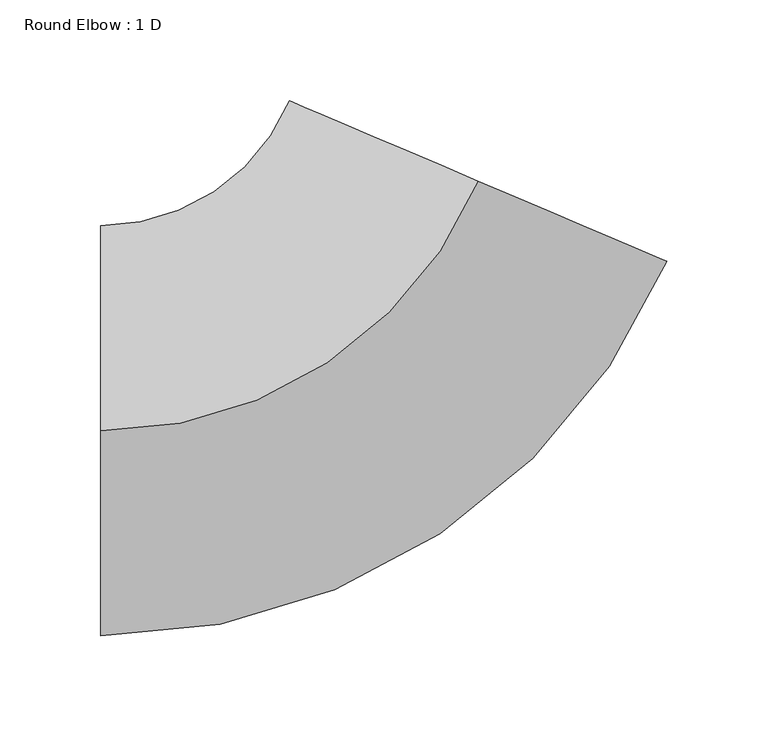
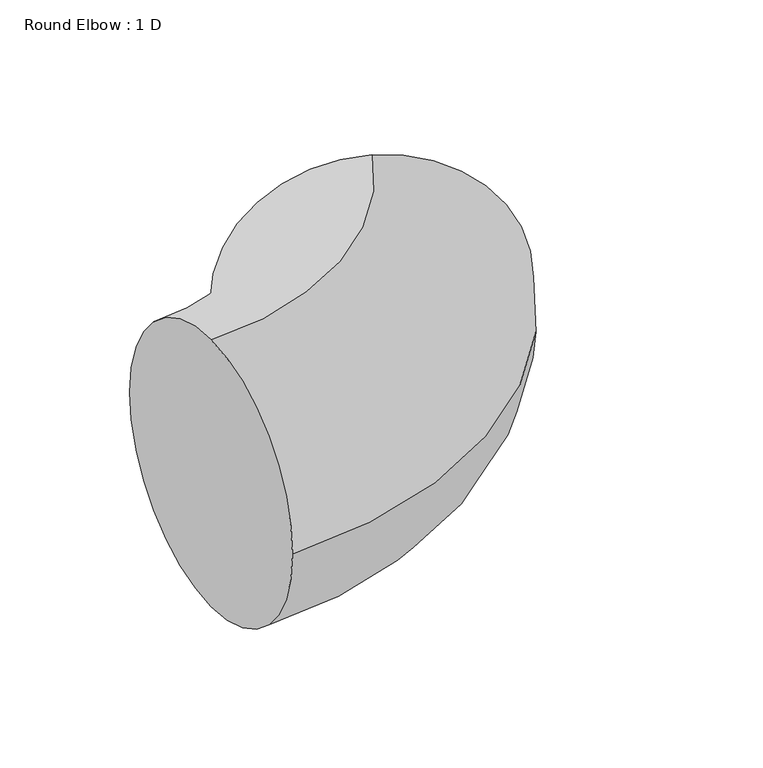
"""IFC4 building model written with IfcOpenShell, lengths in millimetres: duct fitting geometry, Round Elbow : 1 D."""

from ifc_helpers import new_model, si_unit, point, frame, origin, place, context, project, spatial, circle_curve, ellipse_curve, trimmed, source, transform, mapped, element, save
from ifc_brep_helpers import plane_surface, revolved_surface, advanced_brep


def round_elbow_1_d_e523f96f(model_context):
    return source(origin(), model_context, "Body", "AdvancedBrep", [
        advanced_brep(
        [(-134.495146, 0.0, 101.6), (-134.495146, 101.6, 0.0), (-134.495146, 0.0, -101.6), (-134.495146, -101.6, 0.0), (52.5514402, 123.8034347, 101.6), (146.0747333, 84.105152, 0.0), (52.5514402, 123.8034347, -101.6), (-40.9718529, 163.5017173, 0.0)],
        [
            (0, 1, circle_curve(frame((-134.495146, 0.0, 0.0), z_axis=(-1.0, 0.0, 0.0), x_axis=(0.0, 1.0, 0.0)), 101.6)),
            (1, 2, circle_curve(frame((-134.495146, 0.0, 0.0), z_axis=(-1.0, 0.0, 0.0), x_axis=(0.0, 1.0, 0.0)), 101.6)),
            (2, 3, circle_curve(frame((-134.495146, 0.0, 0.0), z_axis=(-1.0, 0.0, 0.0), x_axis=(0.0, 1.0, 0.0)), 101.6)),
            (3, 0, circle_curve(frame((-134.495146, 0.0, 0.0), z_axis=(-1.0, 0.0, 0.0), x_axis=(0.0, 1.0, 0.0)), 101.6)),
            (4, 5, circle_curve(frame((52.5514402, 123.8034347, 0.0), z_axis=(0.39073112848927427, 0.9205048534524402, 0.0), x_axis=(-0.9205048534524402, 0.39073112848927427, 0.0)), 101.6)),
            (5, 6, circle_curve(frame((52.5514402, 123.8034347, 0.0), z_axis=(0.39073112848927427, 0.9205048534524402, 0.0), x_axis=(-0.9205048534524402, 0.39073112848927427, 0.0)), 101.6)),
            (6, 7, circle_curve(frame((52.5514402, 123.8034347, 0.0), z_axis=(0.39073112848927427, 0.9205048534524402, 0.0), x_axis=(-0.9205048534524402, 0.39073112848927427, 0.0)), 101.6)),
            (7, 4, circle_curve(frame((52.5514402, 123.8034347, 0.0), z_axis=(0.39073112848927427, 0.9205048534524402, 0.0), x_axis=(-0.9205048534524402, 0.39073112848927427, 0.0)), 101.6)),
            (7, 1, circle_curve(frame((-134.495146, 203.2, 0.0), z_axis=(0.0, 0.0, -1.0), x_axis=(0.0, -1.0, 0.0)), 101.6)),
            (0, 4, circle_curve(frame((-134.495146, 203.2, 101.6), z_axis=(0.0, 0.0, 1.0), x_axis=(0.0, -1.0, 0.0)), 203.2)),
            (6, 2, circle_curve(frame((-134.495146, 203.2, -101.6), z_axis=(0.0, 0.0, -1.0), x_axis=(0.0, -1.0, 0.0)), 203.2)),
            (5, 3, circle_curve(frame((-134.495146, 203.2, 0.0), z_axis=(0.0, 0.0, -1.0), x_axis=(0.0, -1.0, 0.0)), 304.8)),
        ],
        [
            plane_surface(frame((-134.495146, 0.0, 0.0), z_axis=(-1.0, 0.0, 0.0), x_axis=(0.0, 0.0, 1.0))),
            plane_surface(frame((52.5514402, 123.8034347, 0.0), z_axis=(0.3907311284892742, 0.9205048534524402, 0.0), x_axis=(0.0, 0.0, 1.0))),
            revolved_surface(trimmed(ellipse_curve(frame((-134.495146, 0.0, 0.0), z_axis=(-1.0, 0.0, 0.0), x_axis=(0.0, 1.0, 0.0)), 101.6, 101.6), [point((-134.495146, 0.0, 101.6))], [point((-134.495146, 101.6, 0.0))], True, "CARTESIAN"), (-134.495146, 203.2, 0.0), (0.0, 0.0, 1.0)),
            revolved_surface(trimmed(ellipse_curve(frame((-134.495146, 0.0, 0.0), z_axis=(-1.0, 0.0, 0.0), x_axis=(0.0, 1.0, 0.0)), 101.6, 101.6), [point((-134.495146, 101.6, 0.0))], [point((-134.495146, 0.0, -101.6))], True, "CARTESIAN"), (-134.495146, 203.2, 0.0), (0.0, 0.0, 1.0)),
            revolved_surface(trimmed(ellipse_curve(frame((-134.495146, 0.0, 0.0), z_axis=(-1.0, 0.0, 0.0), x_axis=(0.0, 1.0, 0.0)), 101.6, 101.6), [point((-134.495146, 0.0, -101.6))], [point((-134.495146, -101.6, 0.0))], True, "CARTESIAN"), (-134.495146, 203.2, 0.0), (0.0, 0.0, 1.0)),
            revolved_surface(trimmed(ellipse_curve(frame((-134.495146, 0.0, 0.0), z_axis=(-1.0, 0.0, 0.0), x_axis=(0.0, 1.0, 0.0)), 101.6, 101.6), [point((-134.495146, -101.6, 0.0))], [point((-134.495146, 0.0, 101.6))], True, "CARTESIAN"), (-134.495146, 203.2, 0.0), (0.0, 0.0, 1.0)),
        ],
        [
            (0, [[1, 2, 3, 4]]),
            (1, [[5, 6, 7, 8]]),
            (2, [[9, -1, 10, -8]]),
            (3, [[11, -2, -9, -7]]),
            (4, [[12, -3, -11, -6]]),
            (5, [[-10, -4, -12, -5]]),
        ],
    ),
    ])


if __name__ == "__main__":
    model = new_model("IFC4")
    model_context = context("Model", 3, world=origin())
    ifc_project = project(units=[si_unit("LENGTHUNIT", "METRE", prefix="MILLI")], contexts=[model_context])
    site = spatial("IfcSite", under=ifc_project)
    building = spatial("IfcBuilding", under=site)
    placement = place(None, origin())
    round_elbow_1_d_shape = round_elbow_1_d_e523f96f(model_context)
    element("IfcDuctFitting", 1, ObjectType="Round Elbow : 1 D", at=placement, inside=building, context=model_context, shape_type="MappedRepresentation", body=[
        mapped(round_elbow_1_d_shape, transform((0.0, 0.0, 0.0), x_axis=(1.0, 0.0, 0.0), y_axis=(0.0, 1.0, 0.0), z_axis=(0.0, 0.0, 1.0))),
    ])
    save(model, "model.ifc")
